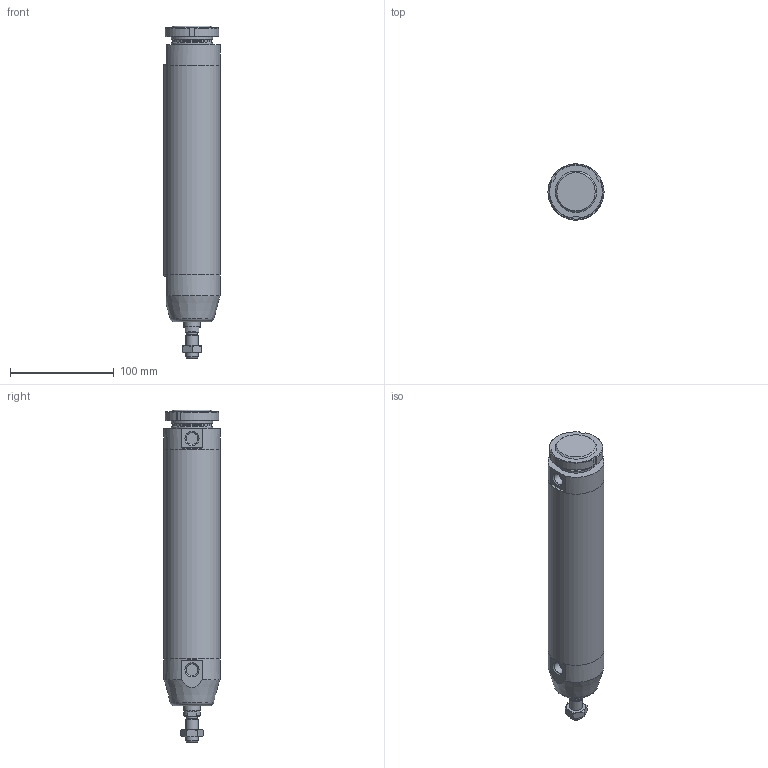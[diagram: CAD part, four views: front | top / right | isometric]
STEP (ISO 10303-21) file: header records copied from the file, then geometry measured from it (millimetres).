
FILE_DESCRIPTION(/* description */ (''),/* implementation_level */ '2;1');
FILE_NAME(/* name */ 'I:\Area Tecnica\Documenti\A-Manieri\_Inventor\12X\12X#B_###_####_#_#\12XAB_050_0160_#_#.stp',/* time_stamp */ '2015-04-27T16:25:30+02:00',/* author */ ('maniean1'),/* organization */ ('Pneumax S.p.A.'),/* preprocessor_version */ 'ST-DEVELOPER v15.2',/* originating_system */ 'Autodesk Inventor 2014',/* authorisation */ '');
FILE_SCHEMA (('AUTOMOTIVE_DESIGN { 1 0 10303 214 3 1 1 }'));
Length unit declared in the file: millimetre
Products named in the file (7): C1250_619-0160; 12X50_613; S12X50_0160; 12X_50_11; 12X50_620; G12X_050_05; 12XAB_050_0160_#_#
Bounding box: 54 x 54 x 320 mm (x, y, z)
Volume: 351283.9 mm3; surface area: 117384 mm2
Topology: 6 solids, 6 shells, 80 faces, 175 edges, 112 vertices
Faces by surface type: plane 40, cylinder 20, cone 19, torus 1
Full cylindrical faces by diameter (mm): 10.2 x1, 11.4 x2, 12 x2, 14 x1, 15.6 x1, 16 x1, 38.2 x1, 40 x3, 50 x2, 54 x3
Entity records: 2134 total; most frequent: CARTESIAN_POINT 399, DIRECTION 359, ORIENTED_EDGE 282, AXIS2_PLACEMENT_3D 154, EDGE_CURVE 141, EDGE_LOOP 122, VERTEX_POINT 107, ADVANCED_FACE 80
